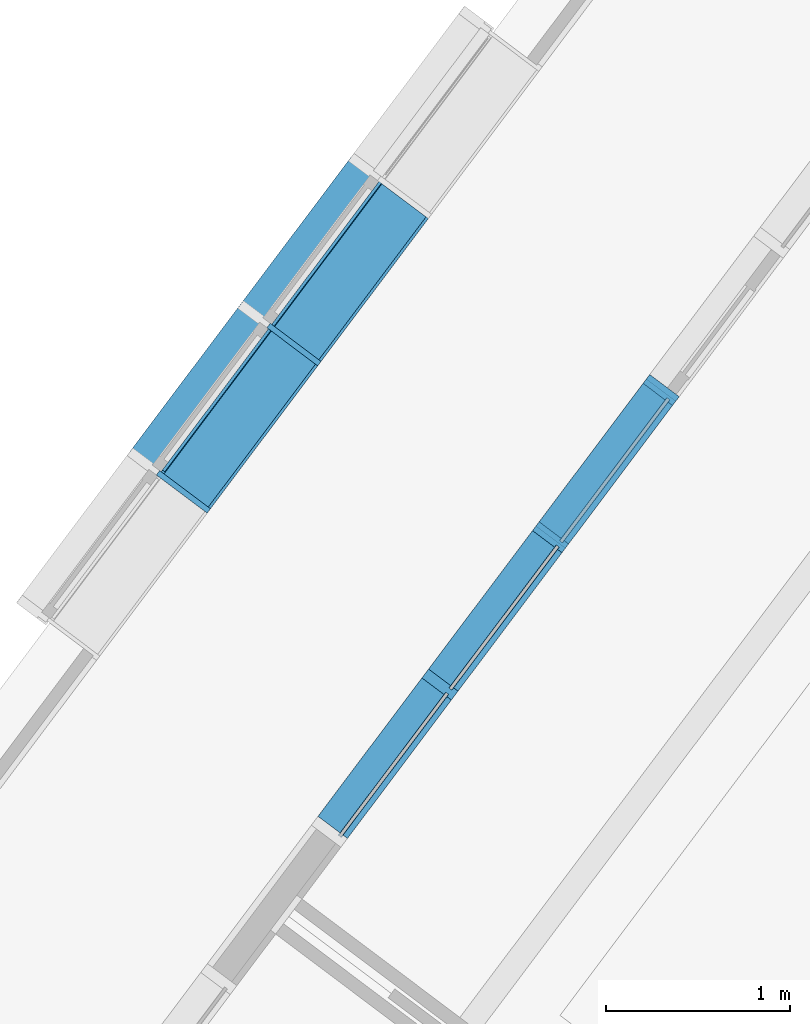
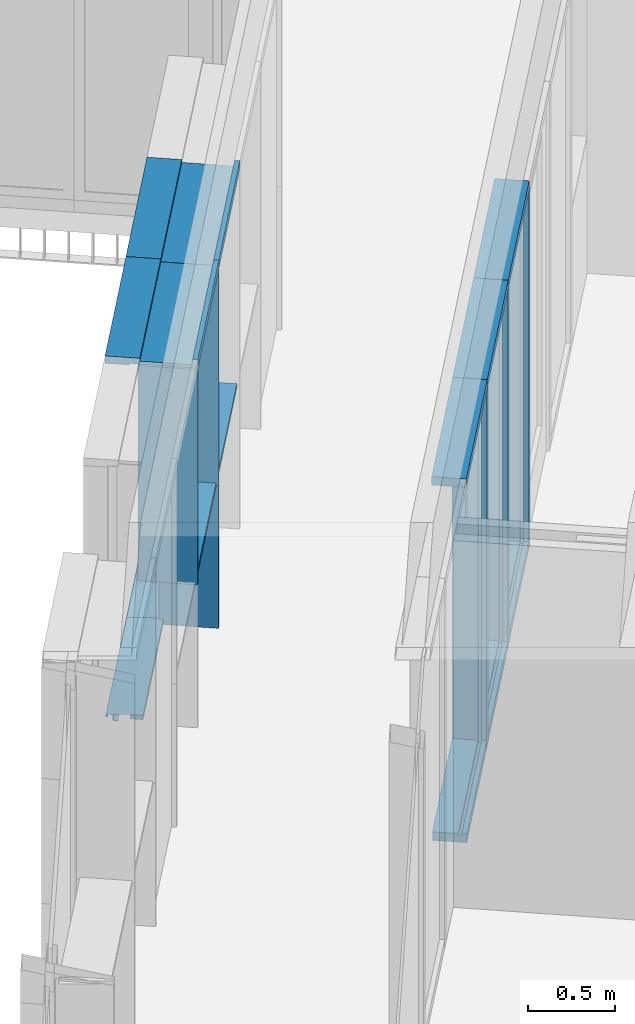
# One storey, part 48 of 243: 20 members, 3 elements without a shape of their own.
"""IFC2X3 building model written with IfcOpenShell, lengths in metres."""

from ifc_helpers import new_model, entity, si_unit, converted_unit, derived_unit, direction, frame, frame_2d, origin, place, context, subcontext, project, spatial, polyline, circle_curve, parameter, trimmed, segment, composite_curve, rectangle, outline, extrude, source, transform, mapped, material, type_object, type_shapes, element, aggregate, save


model = new_model("IFC2X3")

# Units and contexts
model_context = context("Model", 3, precision=1e-05, world=origin(), true_north=direction((6.123031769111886e-17, 1.0)))
body_context = subcontext(model_context, "Body", "Model", "MODEL_VIEW")
ifc_project = project(units=[si_unit("LENGTHUNIT", "METRE"), si_unit("AREAUNIT", "SQUARE_METRE"), si_unit("VOLUMEUNIT", "CUBIC_METRE"), converted_unit("PLANEANGLEUNIT", "DEGREE", entity("IfcRatioMeasure", 0.017453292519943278), si_unit("PLANEANGLEUNIT", "RADIAN"), dimensions=[0, 0, 0, 0, 0, 0, 0]), si_unit("MASSUNIT", "GRAM", prefix="KILO"), derived_unit("MASSDENSITYUNIT", [(si_unit("MASSUNIT", "GRAM", prefix="KILO"), 1), (si_unit("LENGTHUNIT", "METRE"), -3)]), derived_unit("IONCONCENTRATIONUNIT", [(si_unit("MASSUNIT", "GRAM", prefix="KILO"), 1), (si_unit("LENGTHUNIT", "METRE"), -3)]), derived_unit("MOMENTOFINERTIAUNIT", [(si_unit("LENGTHUNIT", "METRE"), 4)]), si_unit("TIMEUNIT", "SECOND"), si_unit("FREQUENCYUNIT", "HERTZ"), si_unit("THERMODYNAMICTEMPERATUREUNIT", "DEGREE_CELSIUS"), derived_unit("THERMALTRANSMITTANCEUNIT", [(si_unit("MASSUNIT", "GRAM", prefix="KILO"), 1), (si_unit("THERMODYNAMICTEMPERATUREUNIT", "KELVIN"), -1), (si_unit("TIMEUNIT", "SECOND"), -3)]), derived_unit("THERMALCONDUCTANCEUNIT", [(si_unit("MASSUNIT", "GRAM", prefix="KILO"), 1), (si_unit("THERMODYNAMICTEMPERATUREUNIT", "KELVIN"), -1), (si_unit("TIMEUNIT", "SECOND"), -3), (si_unit("LENGTHUNIT", "METRE"), 1)]), derived_unit("VOLUMETRICFLOWRATEUNIT", [(si_unit("LENGTHUNIT", "METRE"), 3), (si_unit("TIMEUNIT", "SECOND"), -1)]), derived_unit("MASSFLOWRATEUNIT", [(si_unit("MASSUNIT", "GRAM", prefix="KILO"), 1), (si_unit("TIMEUNIT", "SECOND"), -1)]), derived_unit("ROTATIONALFREQUENCYUNIT", [(si_unit("TIMEUNIT", "SECOND"), -1)]), si_unit("ELECTRICCURRENTUNIT", "AMPERE"), si_unit("ELECTRICVOLTAGEUNIT", "VOLT"), si_unit("POWERUNIT", "WATT"), si_unit("FORCEUNIT", "NEWTON", prefix="KILO"), si_unit("ILLUMINANCEUNIT", "LUX"), si_unit("LUMINOUSFLUXUNIT", "LUMEN"), si_unit("LUMINOUSINTENSITYUNIT", "CANDELA"), derived_unit("USERDEFINED", [(si_unit("MASSUNIT", "GRAM", prefix="KILO"), -1), (si_unit("LENGTHUNIT", "METRE"), -2), (si_unit("TIMEUNIT", "SECOND"), 3), (si_unit("LUMINOUSFLUXUNIT", "LUMEN"), 1)]), derived_unit("USERDEFINED", [(si_unit("MASSUNIT", "GRAM", prefix="KILO"), 1), (si_unit("TIMEUNIT", "SECOND"), -3), (si_unit("LENGTHUNIT", "METRE"), 3), (si_unit("ELECTRICCURRENTUNIT", "AMPERE"), -2)]), derived_unit("SOUNDPOWERUNIT", [(si_unit("MASSUNIT", "GRAM", prefix="KILO"), 1), (si_unit("TIMEUNIT", "SECOND"), -3), (si_unit("LENGTHUNIT", "METRE"), 2)]), derived_unit("SOUNDPRESSUREUNIT", [(si_unit("MASSUNIT", "GRAM", prefix="KILO"), 1), (si_unit("LENGTHUNIT", "METRE"), -1), (si_unit("TIMEUNIT", "SECOND"), -2)]), derived_unit("LINEARVELOCITYUNIT", [(si_unit("LENGTHUNIT", "METRE"), 1), (si_unit("TIMEUNIT", "SECOND"), -1)]), si_unit("PRESSUREUNIT", "PASCAL"), derived_unit("USERDEFINED", [(si_unit("MASSUNIT", "GRAM", prefix="KILO"), 1), (si_unit("LENGTHUNIT", "METRE"), -2), (si_unit("TIMEUNIT", "SECOND"), -2)]), derived_unit("LINEARFORCEUNIT", [(si_unit("MASSUNIT", "GRAM", prefix="KILO"), 1), (si_unit("TIMEUNIT", "SECOND"), -2)]), derived_unit("PLANARFORCEUNIT", [(si_unit("MASSUNIT", "GRAM", prefix="KILO"), 1), (si_unit("LENGTHUNIT", "METRE"), -1), (si_unit("TIMEUNIT", "SECOND"), -2)]), derived_unit("SPECIFICHEATCAPACITYUNIT", [(si_unit("THERMODYNAMICTEMPERATUREUNIT", "KELVIN"), -1), (si_unit("LENGTHUNIT", "METRE"), 2), (si_unit("TIMEUNIT", "SECOND"), -2)]), derived_unit("HEATINGVALUEUNIT", [(si_unit("LENGTHUNIT", "METRE"), 2), (si_unit("TIMEUNIT", "SECOND"), -2)]), derived_unit("VAPORPERMEABILITYUNIT", [(si_unit("LENGTHUNIT", "METRE"), -1), (si_unit("TIMEUNIT", "SECOND"), 1)]), derived_unit("DYNAMICVISCOSITYUNIT", [(si_unit("MASSUNIT", "GRAM", prefix="KILO"), 1), (si_unit("TIMEUNIT", "SECOND"), -1), (si_unit("LENGTHUNIT", "METRE"), -1)]), derived_unit("THERMALEXPANSIONCOEFFICIENTUNIT", [(si_unit("THERMODYNAMICTEMPERATUREUNIT", "KELVIN"), -1)]), derived_unit("MODULUSOFELASTICITYUNIT", [(si_unit("MASSUNIT", "GRAM", prefix="KILO"), 1), (si_unit("LENGTHUNIT", "METRE"), -1), (si_unit("TIMEUNIT", "SECOND"), -2)]), derived_unit("ISOTHERMALMOISTURECAPACITYUNIT", [(si_unit("LENGTHUNIT", "METRE"), 3), (si_unit("MASSUNIT", "GRAM", prefix="KILO"), -1)]), derived_unit("MOISTUREDIFFUSIVITYUNIT", [(si_unit("TIMEUNIT", "SECOND"), -1), (si_unit("LENGTHUNIT", "METRE"), 2)])], contexts=[model_context])

# Site, building, storey
site_placement = place(None, frame((0.0, 0.0, 235.0), z_axis=(0.0, 0.0, 1.0), x_axis=(-0.7996477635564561, 0.6004693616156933, 0.0)))
site = spatial("IfcSite", under=ifc_project, at=site_placement, Name="Default", CompositionType="ELEMENT")
building_placement = place(site_placement, origin())
building = spatial("IfcBuilding", under=site, at=building_placement, CompositionType="ELEMENT")
storey_placement = place(building_placement, origin())
storey = spatial("IfcBuildingStorey", under=building, at=storey_placement, Name="P0- Escola", CompositionType="ELEMENT", Elevation=0.0)

# Curtain wall, members
curtain_wall_type_1 = type_object("IfcCurtainWallType", Name="Muro cortina:MC- INT- a1", PredefinedType="NOTDEFINED")
curtain_wall_1_placement = place(storey_placement, origin())
curtain_wall_1 = element("IfcCurtainWall", 1, at=curtain_wall_1_placement, inside=storey, type_object=curtain_wall_type_1, Name="Muro cortina:MC- INT- a1", ObjectType="Muro cortina:MC- INT- a1")
ifc_material_1 = material(Name="_Fusta massisa- T1")
member_type_1 = type_object("IfcMemberType", Name="Montante rectangular:MC- Fusta- 20x6 cm- Esquerra", PredefinedType="MULLION", material=ifc_material_1)
shared_shape_1 = source(origin(), body_context, "Body", "SweptSolid", [
    extrude(outline(polyline([(-0.07000000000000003, -0.01875000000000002), (-0.04000000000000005, -0.01875000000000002), (-0.04000000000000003, -0.0037500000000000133), (-0.020000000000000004, -0.0037500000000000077), (-0.02, -0.018750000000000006), (0.13, -0.018749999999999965), (0.12999999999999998, 0.04125000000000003), (-0.06999999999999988, 0.04124999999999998), (-0.07000000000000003, -0.01875000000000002)])), frame((-0.01124999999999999, -0.03, -2.5050000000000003), z_axis=(0.0, 0.0, 1.0), x_axis=(0.0, -1.0, 0.0)), (0.0, 0.0, 1.0), 2.5050000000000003),
])
type_shapes(member_type_1, [shared_shape_1])
member_1_placement = place(curtain_wall_1_placement, frame((47.320147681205, -33.41518997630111, 0.0), z_axis=(0.0, 0.0, -1.0), x_axis=(0.0, -1.0, 0.0)))
member_1 = element("IfcMember", 2, at=member_1_placement, type_object=member_type_1, material=ifc_material_1, Name="Montante rectangular:MC- Fusta- 20x6 cm- Esquerra", ObjectType="Montante rectangular:MC- Fusta- 20x6 cm- Esquerra", context=body_context, shape_type="MappedRepresentation", body=[
    mapped(shared_shape_1, transform((0.0, 0.0, 0.0), scale=1.0)),
])
member_type_2 = type_object("IfcMemberType", Name="Montante rectangular:MC- Fusta- 20x6 cm- Esquerra", PredefinedType="MULLION", material=ifc_material_1)
shared_shape_2 = source(origin(), body_context, "Body", "SweptSolid", [
    extrude(outline(polyline([(-0.07000000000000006, -0.01875000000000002), (-0.04000000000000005, -0.01875000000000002), (-0.04000000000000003, -0.0037500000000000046), (-0.02, -0.0037500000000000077), (-0.019999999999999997, -0.018750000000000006), (0.13, -0.018749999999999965), (0.12999999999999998, 0.04125000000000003), (-0.06999999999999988, 0.04124999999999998), (-0.07000000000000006, -0.01875000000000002)])), frame((-0.041249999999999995, -0.029999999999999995, -1.0), z_axis=(0.0, 0.0, 1.0), x_axis=(0.0, -1.0, 0.0)), (0.0, 0.0, 1.0), 0.9999999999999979),
])
type_shapes(member_type_2, [shared_shape_2])
member_2_placement = place(curtain_wall_1_placement, frame((47.320147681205, -33.41518997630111, 2.565), z_axis=(0.0, -1.0, 0.0), x_axis=(0.0, 0.0, 1.0)))
member_2 = element("IfcMember", 3, at=member_2_placement, type_object=member_type_2, material=ifc_material_1, Name="Montante rectangular:MC- Fusta- 20x6 cm- Esquerra", ObjectType="Montante rectangular:MC- Fusta- 20x6 cm- Esquerra", context=body_context, shape_type="MappedRepresentation", body=[
    mapped(shared_shape_2, transform((0.0, 0.0, 0.0), scale=1.0)),
])
member_type_3 = type_object("IfcMemberType", Name="Montante rectangular:MC- Fusta- 20x6 cm- Esquerra", PredefinedType="MULLION", material=ifc_material_1)
shared_shape_3 = source(origin(), body_context, "Body", "SweptSolid", [
    extrude(outline(polyline([(-0.07000000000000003, -0.01875000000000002), (-0.04000000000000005, -0.01875000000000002), (-0.04000000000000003, -0.0037500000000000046), (-0.020000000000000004, -0.0037500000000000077), (-0.02, -0.018750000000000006), (0.13, -0.018749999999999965), (0.12999999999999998, 0.04125000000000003), (-0.06999999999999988, 0.04124999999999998), (-0.07000000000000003, -0.01875000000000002)])), frame((-0.041249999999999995, -0.03, -1.0), z_axis=(0.0, 0.0, 1.0), x_axis=(0.0, -1.0, 0.0)), (0.0, 0.0, 1.0), 0.9999999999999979),
])
type_shapes(member_type_3, [shared_shape_3])
member_3_placement = place(curtain_wall_1_placement, frame((47.32014768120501, -32.41518997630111, 2.565), z_axis=(0.0, -1.0, 0.0), x_axis=(0.0, 0.0, 1.0)))
member_3 = element("IfcMember", 4, at=member_3_placement, type_object=member_type_3, material=ifc_material_1, Name="Montante rectangular:MC- Fusta- 20x6 cm- Esquerra", ObjectType="Montante rectangular:MC- Fusta- 20x6 cm- Esquerra", context=body_context, shape_type="MappedRepresentation", body=[
    mapped(shared_shape_3, transform((0.0, 0.0, 0.0), scale=1.0)),
])
member_type_4 = type_object("IfcMemberType", Name="Montante rectangular:MC- Fusta- 20x6 cm- Centre", PredefinedType="MULLION", material=ifc_material_1)
shared_shape_4 = source(origin(), body_context, "Body", "SweptSolid", [
    extrude(outline(polyline([(-0.06000000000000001, -0.030000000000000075), (-0.03, -0.030000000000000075), (-0.029999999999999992, -0.015000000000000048), (-0.009999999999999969, -0.01499999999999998), (-0.009999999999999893, -0.030000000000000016), (0.14000000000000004, -0.029999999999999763), (0.13999999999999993, 0.030000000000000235), (-0.010000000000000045, 0.02999999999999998), (-0.01000000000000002, 0.014999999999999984), (-0.030000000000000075, 0.014999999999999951), (-0.03000000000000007, 0.029999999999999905), (-0.059999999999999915, 0.029999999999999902), (-0.06000000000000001, -0.030000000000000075)])), frame((0.0, -0.019999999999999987, -2.505000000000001), z_axis=(0.0, 0.0, 1.0), x_axis=(0.0, -1.0, 0.0)), (0.0, 0.0, 1.0), 2.5050000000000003),
])
type_shapes(member_type_4, [shared_shape_4])
member_4_placement = place(curtain_wall_1_placement, frame((47.32014768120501, -32.41518997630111, 0.0), z_axis=(0.0, 0.0, -1.0), x_axis=(0.0, -1.0, 0.0)))
member_4 = element("IfcMember", 5, at=member_4_placement, type_object=member_type_4, material=ifc_material_1, Name="Montante rectangular:MC- Fusta- 20x6 cm- Centre", ObjectType="Montante rectangular:MC- Fusta- 20x6 cm- Centre", context=body_context, shape_type="MappedRepresentation", body=[
    mapped(shared_shape_4, transform((0.0, 0.0, 0.0), scale=1.0)),
])
member_5_placement = place(curtain_wall_1_placement, frame((47.32014768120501, -31.41518997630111, 0.0), z_axis=(0.0, 0.0, -1.0), x_axis=(0.0, -1.0, 0.0)))
member_5 = element("IfcMember", 6, at=member_5_placement, type_object=member_type_4, material=ifc_material_1, Name="Montante rectangular:MC- Fusta- 20x6 cm- Centre", ObjectType="Montante rectangular:MC- Fusta- 20x6 cm- Centre", context=body_context, shape_type="MappedRepresentation", body=[
    mapped(shared_shape_4, transform((0.0, 0.0, 0.0), scale=1.0)),
])
member_type_5 = type_object("IfcMemberType", Name="Montante rectangular:MC- Fusta- 20x6 cm- Esquerra", PredefinedType="MULLION", material=ifc_material_1)
shared_shape_5 = source(origin(), body_context, "Body", "SweptSolid", [
    extrude(outline(polyline([(-0.07000000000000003, -0.01875000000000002), (-0.04000000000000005, -0.01875000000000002), (-0.04000000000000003, -0.0037500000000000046), (-0.020000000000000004, -0.0037500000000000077), (-0.02, -0.018750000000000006), (0.13, -0.018749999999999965), (0.12999999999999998, 0.04125000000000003), (-0.06999999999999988, 0.04124999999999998), (-0.07000000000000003, -0.01875000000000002)])), frame((-0.041249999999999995, -0.03, -1.0), z_axis=(0.0, 0.0, 1.0), x_axis=(0.0, -1.0, 0.0)), (0.0, 0.0, 1.0), 0.9999999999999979),
])
type_shapes(member_type_5, [shared_shape_5])
member_6_placement = place(curtain_wall_1_placement, frame((47.32014768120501, -31.41518997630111, 2.565), z_axis=(0.0, -1.0, 0.0), x_axis=(0.0, 0.0, 1.0)))
member_6 = element("IfcMember", 7, at=member_6_placement, type_object=member_type_5, material=ifc_material_1, Name="Montante rectangular:MC- Fusta- 20x6 cm- Esquerra", ObjectType="Montante rectangular:MC- Fusta- 20x6 cm- Esquerra", context=body_context, shape_type="MappedRepresentation", body=[
    mapped(shared_shape_5, transform((0.0, 0.0, 0.0), scale=1.0)),
])
member_type_6 = type_object("IfcMemberType", Name="Montante rectangular:MC- Fusta- 20x6 cm- Inferior", PredefinedType="MULLION", material=ifc_material_1)
shared_shape_6 = source(origin(), body_context, "Body", "SweptSolid", [
    extrude(outline(polyline([(-0.06999999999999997, -0.018750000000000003), (-0.039999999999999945, -0.018750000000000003), (-0.03999999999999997, -0.003750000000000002), (-0.019999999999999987, -0.0037500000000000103), (-0.019999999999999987, -0.018750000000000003), (0.13000000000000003, -0.018750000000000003), (0.13000000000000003, 0.041249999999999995), (-0.07000000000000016, 0.041249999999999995), (-0.06999999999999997, -0.018750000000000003)])), frame((-0.041249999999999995, -0.02999999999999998, -0.9399999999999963), z_axis=(0.0, 0.0, 1.0), x_axis=(0.0, -1.0, 0.0)), (0.0, 0.0, 1.0), 0.9399999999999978),
])
type_shapes(member_type_6, [shared_shape_6])
member_7_placement = place(curtain_wall_1_placement, frame((47.32014768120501, -32.44518997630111, 0.0), z_axis=(0.0, 1.0, 0.0), x_axis=(0.0, 0.0, -1.0)))
member_7 = element("IfcMember", 8, at=member_7_placement, type_object=member_type_6, material=ifc_material_1, Name="Montante rectangular:MC- Fusta- 20x6 cm- Inferior", ObjectType="Montante rectangular:MC- Fusta- 20x6 cm- Inferior", context=body_context, shape_type="MappedRepresentation", body=[
    mapped(shared_shape_6, transform((0.0, 0.0, 0.0), scale=1.0)),
])
member_8_placement = place(curtain_wall_1_placement, frame((47.32014768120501, -31.445189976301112, 0.0), z_axis=(0.0, 1.0, 0.0), x_axis=(0.0, 0.0, -1.0)))
member_8 = element("IfcMember", 9, at=member_8_placement, type_object=member_type_6, material=ifc_material_1, Name="Montante rectangular:MC- Fusta- 20x6 cm- Inferior", ObjectType="Montante rectangular:MC- Fusta- 20x6 cm- Inferior", context=body_context, shape_type="MappedRepresentation", body=[
    mapped(shared_shape_6, transform((0.0, 0.0, 0.0), scale=1.0)),
])
member_9_placement = place(curtain_wall_1_placement, frame((47.32014768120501, -30.445189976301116, 0.0), z_axis=(0.0, 1.0, 0.0), x_axis=(0.0, 0.0, -1.0)))
member_9 = element("IfcMember", 10, at=member_9_placement, type_object=member_type_6, material=ifc_material_1, Name="Montante rectangular:MC- Fusta- 20x6 cm- Inferior", ObjectType="Montante rectangular:MC- Fusta- 20x6 cm- Inferior", context=body_context, shape_type="MappedRepresentation", body=[
    mapped(shared_shape_6, transform((0.0, 0.0, 0.0), scale=1.0)),
])
aggregate(curtain_wall_1, [member_2, member_1, member_3, member_4, member_6, member_5, member_7, member_8, member_9])

curtain_wall_type_2 = type_object("IfcCurtainWallType", Name="Muro cortina:MC- INT- k2", PredefinedType="NOTDEFINED")
curtain_wall_2_placement = place(storey_placement, origin())
curtain_wall_2 = element("IfcCurtainWall", 11, at=curtain_wall_2_placement, inside=storey, type_object=curtain_wall_type_2, Name="Muro cortina:MC- INT- k2", ObjectType="Muro cortina:MC- INT- k2")
member_type_7 = type_object("IfcMemberType", Name="Montante rectangular:MC- Fusta- 35x3 cm- Centre", PredefinedType="MULLION", material=ifc_material_1)
shared_shape_7 = source(origin(), body_context, "Body", "SweptSolid", [
    extrude(rectangle(XDim=0.3450000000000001, YDim=0.030000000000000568, at=frame_2d((0.0, -1.3964523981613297e-16), x_axis=(1.0, 0.0))), frame((0.0, -0.07750000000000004, -1.0), z_axis=(0.0, 0.0, 1.0), x_axis=(0.0, -1.0, 0.0)), (0.0, 0.0, 1.0), 1.0),
])
type_shapes(member_type_7, [shared_shape_7])
member_10_placement = place(curtain_wall_2_placement, frame((49.04514768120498, -32.41519175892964, 0.0), z_axis=(0.0, 0.0, -1.0), x_axis=(0.0, -1.0, 0.0)))
member_10 = element("IfcMember", 12, at=member_10_placement, type_object=member_type_7, material=ifc_material_1, Name="Montante rectangular:MC- Fusta- 35x3 cm- Centre", ObjectType="Montante rectangular:MC- Fusta- 35x3 cm- Centre", context=body_context, shape_type="MappedRepresentation", body=[
    mapped(shared_shape_7, transform((0.0, 0.0, 0.0), scale=1.0)),
])
member_type_8 = type_object("IfcMemberType", Name="Montante rectangular:MC- Fusta- 35x3 cm- Pati aules- Remat superior", PredefinedType="MULLION", material=ifc_material_1)
shared_shape_8 = source(origin(), body_context, "Body", "SweptSolid", [
    extrude(outline(polyline([(-0.12166666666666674, -0.02666666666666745), (0.21333333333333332, -0.02666666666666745), (0.2133333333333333, -0.006666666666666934), (-0.09166666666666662, -0.006666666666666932), (-0.09166666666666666, 0.03333333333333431), (-0.12166666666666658, 0.03333333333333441), (-0.12166666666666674, -0.02666666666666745)])), frame((-0.033333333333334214, -0.026666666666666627, -1.0), z_axis=(0.0, 0.0, 1.0), x_axis=(0.0, -1.0, 0.0)), (0.0, 0.0, 1.0), 0.9999999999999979),
])
type_shapes(member_type_8, [shared_shape_8])
member_11_placement = place(curtain_wall_2_placement, frame((49.04514768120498, -32.41519175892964, 2.565), z_axis=(0.0, -1.0, 0.0), x_axis=(0.0, 0.0, 1.0)))
member_11 = element("IfcMember", 13, at=member_11_placement, type_object=member_type_8, material=ifc_material_1, Name="Montante rectangular:MC- Fusta- 35x3 cm- Pati aules- Remat superior", ObjectType="Montante rectangular:MC- Fusta- 35x3 cm- Pati aules- Remat superior", context=body_context, shape_type="MappedRepresentation", body=[
    mapped(shared_shape_8, transform((0.0, 0.0, 0.0), scale=1.0)),
])
member_12_placement = place(curtain_wall_2_placement, frame((49.04514768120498, -33.41519175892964, 2.565), z_axis=(0.0, -1.0, 0.0), x_axis=(0.0, 0.0, 1.0)))
member_12 = element("IfcMember", 14, at=member_12_placement, type_object=member_type_8, material=ifc_material_1, Name="Montante rectangular:MC- Fusta- 35x3 cm- Pati aules- Remat superior", ObjectType="Montante rectangular:MC- Fusta- 35x3 cm- Pati aules- Remat superior", context=body_context, shape_type="MappedRepresentation", body=[
    mapped(shared_shape_8, transform((0.0, 0.0, 0.0), scale=1.0)),
])
member_type_9 = type_object("IfcMemberType", Name="Montante rectangular:MC- Fusta- 35x3 cm- Pati aules- Prestatge", PredefinedType="MULLION", material=ifc_material_1)
shared_shape_9 = source(origin(), body_context, "Body", "SweptSolid", [
    extrude(rectangle(XDim=0.30000000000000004, YDim=0.03000000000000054, at=frame_2d((0.0, -1.231653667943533e-16), x_axis=(1.0, 0.0))), frame((0.0, -0.07000000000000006, -0.9699999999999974), z_axis=(0.0, 0.0, 1.0), x_axis=(0.0, -1.0, 0.0)), (0.0, 0.0, 1.0), 0.969999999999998),
])
type_shapes(member_type_9, [shared_shape_9])
member_13_placement = place(curtain_wall_2_placement, frame((49.04514768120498, -32.40019175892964, 1.0), z_axis=(0.0, -1.0, 0.0), x_axis=(0.0, 0.0, 1.0)))
member_13 = element("IfcMember", 15, at=member_13_placement, type_object=member_type_9, material=ifc_material_1, Name="Montante rectangular:MC- Fusta- 35x3 cm- Pati aules- Prestatge", ObjectType="Montante rectangular:MC- Fusta- 35x3 cm- Pati aules- Prestatge", context=body_context, shape_type="MappedRepresentation", body=[
    mapped(shared_shape_9, transform((0.0, 0.0, 0.0), scale=1.0)),
])
member_14_placement = place(curtain_wall_2_placement, frame((49.04514768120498, -33.40019175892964, 1.0), z_axis=(0.0, -1.0, 0.0), x_axis=(0.0, 0.0, 1.0)))
member_14 = element("IfcMember", 16, at=member_14_placement, type_object=member_type_9, material=ifc_material_1, Name="Montante rectangular:MC- Fusta- 35x3 cm- Pati aules- Prestatge", ObjectType="Montante rectangular:MC- Fusta- 35x3 cm- Pati aules- Prestatge", context=body_context, shape_type="MappedRepresentation", body=[
    mapped(shared_shape_9, transform((0.0, 0.0, 0.0), scale=1.0)),
])
member_type_10 = type_object("IfcMemberType", Name="Montante rectangular:MC- Fusta- 35x3 cm- Centre", PredefinedType="MULLION", material=ifc_material_1)
shared_shape_10 = source(origin(), body_context, "Body", "SweptSolid", [
    extrude(rectangle(XDim=0.3450000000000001, YDim=0.030000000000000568, at=frame_2d((0.0, -1.3964523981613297e-16), x_axis=(1.0, 0.0))), frame((0.0, -0.07750000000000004, -1.504999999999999), z_axis=(0.0, 0.0, 1.0), x_axis=(0.0, -1.0, 0.0)), (0.0, 0.0, 1.0), 1.504999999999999),
])
type_shapes(member_type_10, [shared_shape_10])
member_15_placement = place(curtain_wall_2_placement, frame((49.04514768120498, -31.41519175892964, 1.0), z_axis=(0.0, 0.0, -1.0), x_axis=(0.0, -1.0, 0.0)))
member_15 = element("IfcMember", 17, at=member_15_placement, type_object=member_type_10, material=ifc_material_1, Name="Montante rectangular:MC- Fusta- 35x3 cm- Centre", ObjectType="Montante rectangular:MC- Fusta- 35x3 cm- Centre", context=body_context, shape_type="MappedRepresentation", body=[
    mapped(shared_shape_10, transform((0.0, 0.0, 0.0), scale=1.0)),
])
member_16_placement = place(curtain_wall_2_placement, frame((49.04514768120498, -32.41519175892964, 1.0), z_axis=(0.0, 0.0, -1.0), x_axis=(0.0, -1.0, 0.0)))
member_16 = element("IfcMember", 18, at=member_16_placement, type_object=member_type_10, material=ifc_material_1, Name="Montante rectangular:MC- Fusta- 35x3 cm- Centre", ObjectType="Montante rectangular:MC- Fusta- 35x3 cm- Centre", context=body_context, shape_type="MappedRepresentation", body=[
    mapped(shared_shape_10, transform((0.0, 0.0, 0.0), scale=1.0)),
])
aggregate(curtain_wall_2, [member_11, member_10, member_12, member_13, member_14, member_15, member_16])

curtain_wall_type_3 = type_object("IfcCurtainWallType", Name="Muro cortina:MC- EXT- MC5", PredefinedType="NOTDEFINED")
curtain_wall_3_placement = place(storey_placement, origin())
curtain_wall_3 = element("IfcCurtainWall", 19, at=curtain_wall_3_placement, inside=storey, type_object=curtain_wall_type_3, Name="Muro cortina:MC- EXT- MC5", ObjectType="Muro cortina:MC- EXT- MC5")
ifc_material_2 = material(Name="_Alumini- T1- Perfil")
member_type_11 = type_object("IfcMemberType", Name="Montante rectangular:MC- Alu- 140x52,5 cm- Fa patis- inferior", PredefinedType="MULLION", material=ifc_material_2)
shared_shape_11 = source(origin(), body_context, "Body", "SweptSolid", [
    extrude(outline(composite_curve([segment(polyline([(-0.144167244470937, -0.025867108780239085), (-0.12786724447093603, -0.02586710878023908)]), True, "CONTINUOUS"), segment(polyline([(-0.12786724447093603, -0.02586710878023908), (-0.12786724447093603, -0.023167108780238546)]), True, "CONTINUOUS"), segment(polyline([(-0.12786724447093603, -0.023167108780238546), (-0.0678672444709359, -0.023167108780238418)]), True, "CONTINUOUS"), segment(polyline([(-0.0678672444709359, -0.023167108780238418), (0.07031215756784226, -0.010722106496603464)]), True, "CONTINUOUS"), segment(trimmed(circle_curve(frame_2d((0.07013275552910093, -0.008730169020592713), x_axis=(0.0897010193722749, -0.9959687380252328)), 0.0019999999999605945), [parameter(0.0)], [parameter(84.8535928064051)], True, "PARAMETER"), True, "CONTINUOUS"), segment(polyline([(0.07213275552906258, -0.008730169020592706), (0.07213275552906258, 0.006266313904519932)]), True, "CONTINUOUS"), segment(trimmed(circle_curve(frame_2d((0.07013275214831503, 0.006266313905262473), x_axis=(1.0, 0.0)), 0.0020000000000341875), [parameter(0.0)], [parameter(90.00000002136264)], True, "PARAMETER"), True, "CONTINUOUS"), segment(polyline([(0.070132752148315, 0.008266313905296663), (0.06213275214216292, 0.008266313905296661)]), True, "CONTINUOUS"), segment(polyline([(0.06213275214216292, 0.008266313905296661), (0.06213275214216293, 0.006266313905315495)]), True, "CONTINUOUS"), segment(polyline([(0.06213275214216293, 0.006266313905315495), (0.06963275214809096, 0.006266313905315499)]), True, "CONTINUOUS"), segment(trimmed(circle_curve(frame_2d((0.06963275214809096, 0.005766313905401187), x_axis=(0.0, 1.0)), 0.0004999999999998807), [parameter(269.9999999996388)], [parameter(0.0)], True, "PARAMETER"), False, "CONTINUOUS"), segment(polyline([(0.07013275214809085, 0.005766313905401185), (0.07013275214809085, -0.008730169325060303)]), True, "CONTINUOUS"), segment(polyline([(0.07013275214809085, -0.008730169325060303), (0.03213275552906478, -0.012152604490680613)]), True, "CONTINUOUS"), segment(polyline([(0.03213275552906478, -0.0121526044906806), (0.03213275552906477, 0.029132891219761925)]), True, "CONTINUOUS"), segment(polyline([(0.03213275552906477, 0.029132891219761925), (0.0021327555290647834, 0.029132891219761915)]), True, "CONTINUOUS"), segment(polyline([(0.0021327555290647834, 0.029132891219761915), (0.0021327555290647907, 0.02713289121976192)]), True, "CONTINUOUS"), segment(polyline([(0.0021327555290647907, 0.02713289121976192), (0.03013275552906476, 0.02713289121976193)]), True, "CONTINUOUS"), segment(polyline([(0.03013275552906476, 0.027132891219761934), (0.03013275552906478, -0.012332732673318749)]), True, "CONTINUOUS"), segment(polyline([(0.03013275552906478, -0.012332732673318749), (-0.06786724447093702, -0.021159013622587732)]), True, "CONTINUOUS"), segment(polyline([(-0.06786724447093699, -0.02115901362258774), (-0.067867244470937, 0.009132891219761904)]), True, "CONTINUOUS"), segment(polyline([(-0.06786724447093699, 0.009132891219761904), (-0.14416724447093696, 0.009132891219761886)]), True, "CONTINUOUS"), segment(polyline([(-0.14416724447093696, 0.009132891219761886), (-0.144167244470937, -0.025867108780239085)]), True, "CONTINUOUS")], self_intersect=False)), frame((-0.029132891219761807, -0.06786724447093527, -0.9737499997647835), z_axis=(0.0, 0.0, 1.0), x_axis=(0.0, -1.0, 0.0)), (0.0, 0.0, 1.0), 0.9737499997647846),
])
type_shapes(member_type_11, [shared_shape_11])
member_17_placement = place(curtain_wall_3_placement, frame((49.34514768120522, -31.441441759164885, -0.02), z_axis=(0.0, 1.0, 0.0), x_axis=(0.0, 0.0, -1.0)))
member_17 = element("IfcMember", 20, at=member_17_placement, type_object=member_type_11, material=ifc_material_2, Name="Montante rectangular:MC- Alu- 140x52,5 cm- Fa patis- inferior", ObjectType="Montante rectangular:MC- Alu- 140x52,5 cm- Fa patis- inferior", context=body_context, shape_type="MappedRepresentation", body=[
    mapped(shared_shape_11, transform((0.0, 0.0, 0.0), scale=1.0)),
])
member_type_12 = type_object("IfcMemberType", Name="Montante rectangular:MC- Alu- 140x52,5 cm- Fa patis- Superior", PredefinedType="MULLION", material=ifc_material_2)
shared_shape_12 = source(origin(), body_context, "Body", "SweptSolid", [
    extrude(outline(polyline([(-0.026333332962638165, -0.021249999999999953), (0.11366666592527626, -0.021249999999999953), (0.11366666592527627, 0.031250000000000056), (-0.08733333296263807, 0.03125000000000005), (-0.0873333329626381, -0.010000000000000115), (-0.026333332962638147, -0.010000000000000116), (-0.026333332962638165, -0.021249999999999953)])), frame((-0.031250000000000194, -0.02733333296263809, -1.0), z_axis=(0.0, 0.0, 1.0), x_axis=(0.0, -1.0, 0.0)), (0.0, 0.0, 1.0), 1.0000000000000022),
])
type_shapes(member_type_12, [shared_shape_12])
member_18_placement = place(curtain_wall_3_placement, frame((49.34514768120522, -32.415191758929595, 2.545), z_axis=(0.0, -1.0, 0.0), x_axis=(0.0, 0.0, 1.0)))
member_18 = element("IfcMember", 21, at=member_18_placement, type_object=member_type_12, material=ifc_material_2, Name="Montante rectangular:MC- Alu- 140x52,5 cm- Fa patis- Superior", ObjectType="Montante rectangular:MC- Alu- 140x52,5 cm- Fa patis- Superior", context=body_context, shape_type="MappedRepresentation", body=[
    mapped(shared_shape_12, transform((0.0, 0.0, 0.0), scale=1.0)),
])
member_19_placement = place(curtain_wall_3_placement, frame((49.34514768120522, -33.415191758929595, 2.545), z_axis=(0.0, -1.0, 0.0), x_axis=(0.0, 0.0, 1.0)))
member_19 = element("IfcMember", 22, at=member_19_placement, type_object=member_type_12, material=ifc_material_2, Name="Montante rectangular:MC- Alu- 140x52,5 cm- Fa patis- Superior", ObjectType="Montante rectangular:MC- Alu- 140x52,5 cm- Fa patis- Superior", context=body_context, shape_type="MappedRepresentation", body=[
    mapped(shared_shape_12, transform((0.0, 0.0, 0.0), scale=1.0)),
])
member_type_13 = type_object("IfcMemberType", Name="Montante rectangular:MC- Alu- 140x52,5 cm- Fa patis- inferior", PredefinedType="MULLION", material=ifc_material_2)
shared_shape_13 = source(origin(), body_context, "Body", "SweptSolid", [
    extrude(outline(composite_curve([segment(polyline([(-0.144167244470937, -0.02586710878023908), (-0.12786724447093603, -0.025867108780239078)]), True, "CONTINUOUS"), segment(polyline([(-0.12786724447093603, -0.025867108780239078), (-0.12786724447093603, -0.023167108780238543)]), True, "CONTINUOUS"), segment(polyline([(-0.12786724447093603, -0.023167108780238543), (-0.0678672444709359, -0.023167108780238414)]), True, "CONTINUOUS"), segment(polyline([(-0.0678672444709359, -0.023167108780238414), (0.07031215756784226, -0.01072210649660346)]), True, "CONTINUOUS"), segment(trimmed(circle_curve(frame_2d((0.07013275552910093, -0.00873016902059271), x_axis=(0.0897010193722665, -0.9959687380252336)), 0.0019999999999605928), [parameter(0.0)], [parameter(84.85359280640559)], True, "PARAMETER"), True, "CONTINUOUS"), segment(polyline([(0.07213275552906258, -0.008730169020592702), (0.07213275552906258, 0.006266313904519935)]), True, "CONTINUOUS"), segment(trimmed(circle_curve(frame_2d((0.070132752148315, 0.0062663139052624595), x_axis=(1.0, 0.0)), 0.0020000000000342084), [parameter(0.0)], [parameter(90.00000002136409)], True, "PARAMETER"), True, "CONTINUOUS"), segment(polyline([(0.070132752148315, 0.008266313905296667), (0.06213275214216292, 0.008266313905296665)]), True, "CONTINUOUS"), segment(polyline([(0.06213275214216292, 0.008266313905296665), (0.06213275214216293, 0.006266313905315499)]), True, "CONTINUOUS"), segment(polyline([(0.06213275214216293, 0.006266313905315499), (0.06963275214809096, 0.006266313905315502)]), True, "CONTINUOUS"), segment(trimmed(circle_curve(frame_2d((0.06963275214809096, 0.005766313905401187), x_axis=(0.0, 1.0)), 0.000499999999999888), [parameter(269.9999999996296)], [parameter(0.0)], True, "PARAMETER"), False, "CONTINUOUS"), segment(polyline([(0.07013275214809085, 0.005766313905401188), (0.07013275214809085, -0.0087301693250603)]), True, "CONTINUOUS"), segment(polyline([(0.07013275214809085, -0.0087301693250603), (0.03213275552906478, -0.01215260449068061)]), True, "CONTINUOUS"), segment(polyline([(0.03213275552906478, -0.012152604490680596), (0.03213275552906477, 0.02913289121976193)]), True, "CONTINUOUS"), segment(polyline([(0.03213275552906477, 0.02913289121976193), (0.0021327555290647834, 0.029132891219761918)]), True, "CONTINUOUS"), segment(polyline([(0.0021327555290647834, 0.029132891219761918), (0.0021327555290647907, 0.027132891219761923)]), True, "CONTINUOUS"), segment(polyline([(0.0021327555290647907, 0.027132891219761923), (0.03013275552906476, 0.027132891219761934)]), True, "CONTINUOUS"), segment(polyline([(0.03013275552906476, 0.027132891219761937), (0.03013275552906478, -0.012332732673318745)]), True, "CONTINUOUS"), segment(polyline([(0.03013275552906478, -0.012332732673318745), (-0.06786724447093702, -0.02115901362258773)]), True, "CONTINUOUS"), segment(polyline([(-0.06786724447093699, -0.021159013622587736), (-0.067867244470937, 0.009132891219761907)]), True, "CONTINUOUS"), segment(polyline([(-0.06786724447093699, 0.009132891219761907), (-0.14416724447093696, 0.00913289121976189)]), True, "CONTINUOUS"), segment(polyline([(-0.14416724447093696, 0.00913289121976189), (-0.144167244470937, -0.02586710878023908)]), True, "CONTINUOUS")], self_intersect=False)), frame((-0.02913289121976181, -0.06786724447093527, -1.0), z_axis=(0.0, 0.0, 1.0), x_axis=(0.0, -1.0, 0.0)), (0.0, 0.0, 1.0), 0.9999999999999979),
])
type_shapes(member_type_13, [shared_shape_13])
member_20_placement = place(curtain_wall_3_placement, frame((49.34514768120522, -32.415191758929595, -0.02), z_axis=(0.0, 1.0, 0.0), x_axis=(0.0, 0.0, -1.0)))
member_20 = element("IfcMember", 23, at=member_20_placement, type_object=member_type_13, material=ifc_material_2, Name="Montante rectangular:MC- Alu- 140x52,5 cm- Fa patis- inferior", ObjectType="Montante rectangular:MC- Alu- 140x52,5 cm- Fa patis- inferior", context=body_context, shape_type="MappedRepresentation", body=[
    mapped(shared_shape_13, transform((0.0, 0.0, 0.0), scale=1.0)),
])
aggregate(curtain_wall_3, [member_17, member_18, member_20, member_19])

save(model, "model.ifc")
